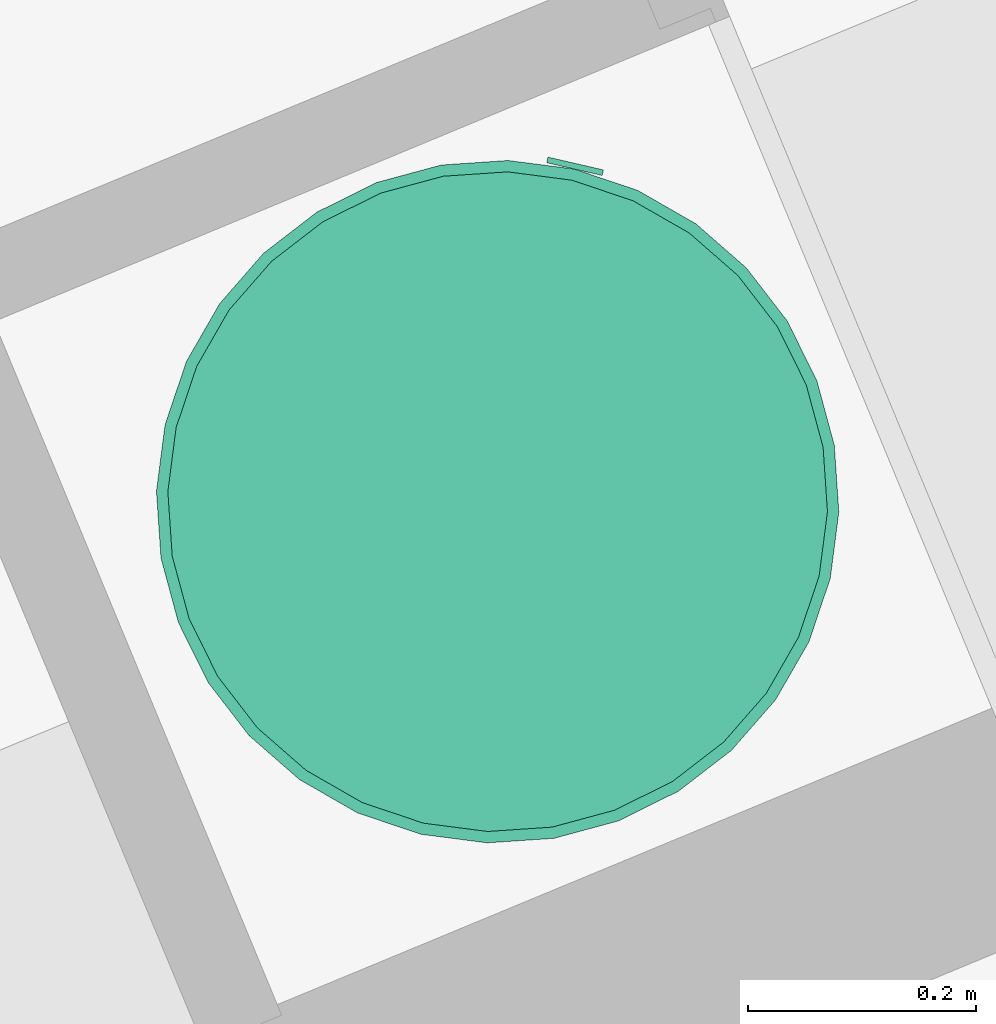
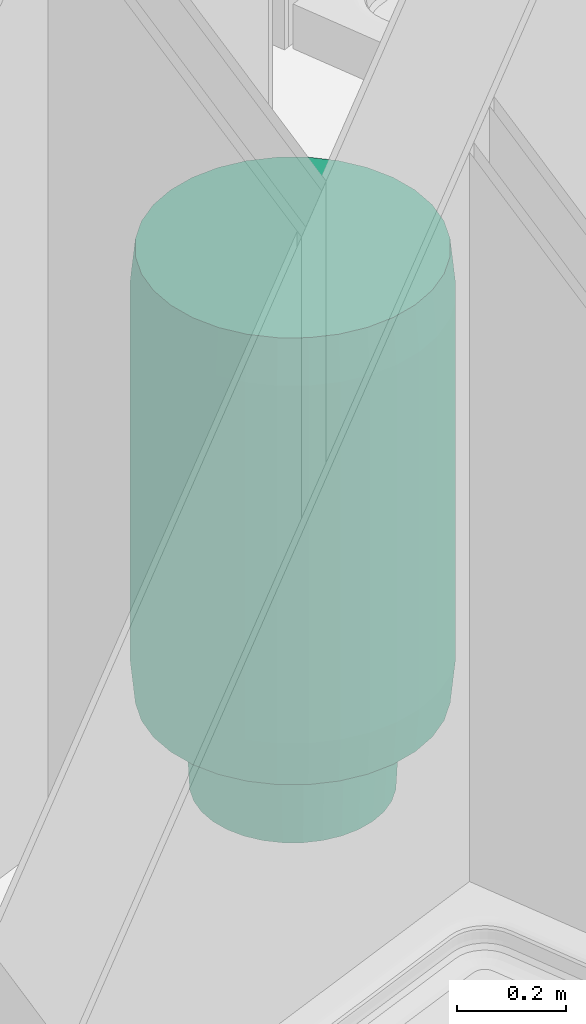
# One storey, part 82 of 119: 1 energy conversion device.
"""IFC2X3 building model written with IfcOpenShell, lengths in metres."""

from ifc_helpers import new_model, entity, si_unit, converted_unit, derived_unit, money_unit, direction, frame, origin_with_axes, place, context, subcontext, project, spatial, open_shell, faceted_brep, surface_model, source, transform, mapped, type_object, element, save


model = new_model("IFC2X3")

# Units and contexts
model_context = context("Model", 3, precision=1e-05, world=origin_with_axes(), true_north=direction((0.0, 1.0)))
body_context = subcontext(model_context, "Body", "Model", "MODEL_VIEW")
ifc_project = project(units=[si_unit("LENGTHUNIT", "METRE"), si_unit("AREAUNIT", "SQUARE_METRE"), si_unit("VOLUMEUNIT", "CUBIC_METRE"), converted_unit("PLANEANGLEUNIT", "DEGREE", entity("IfcPlaneAngleMeasure", 0.0174532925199), si_unit("PLANEANGLEUNIT", "RADIAN"), dimensions=[0, 0, 0, 0, 0, 0, 0]), si_unit("SOLIDANGLEUNIT", "STERADIAN"), money_unit("EUR"), converted_unit("TIMEUNIT", "Year", entity("IfcTimeMeasure", 31556926.0), si_unit("TIMEUNIT", "SECOND"), dimensions=[0, 0, 1, 0, 0, 0, 0]), si_unit("MASSUNIT", "GRAM", prefix="KILO"), si_unit("THERMODYNAMICTEMPERATUREUNIT", "DEGREE_CELSIUS"), si_unit("LUMINOUSINTENSITYUNIT", "LUMEN"), si_unit("ENERGYUNIT", "JOULE", prefix="MEGA"), derived_unit("THERMALCONDUCTANCEUNIT", [(si_unit("POWERUNIT", "WATT"), 1), (si_unit("LENGTHUNIT", "METRE"), -1), (si_unit("THERMODYNAMICTEMPERATUREUNIT", "KELVIN"), -1)]), derived_unit("SPECIFICHEATCAPACITYUNIT", [(si_unit("ENERGYUNIT", "JOULE"), 1), (si_unit("MASSUNIT", "GRAM", prefix="KILO"), -1), (si_unit("THERMODYNAMICTEMPERATUREUNIT", "KELVIN"), -1)]), derived_unit("MASSDENSITYUNIT", [(si_unit("MASSUNIT", "GRAM", prefix="KILO"), 1), (si_unit("VOLUMEUNIT", "CUBIC_METRE"), -1)])], contexts=[model_context])

# Site, building, storey
site_placement = place(None, origin_with_axes())
site = spatial("IfcSite", under=ifc_project, at=site_placement, Name="Site", CompositionType="ELEMENT")
building_placement = place(site_placement, origin_with_axes())
building = spatial("IfcBuilding", under=site, at=building_placement, Name="Bâtiment", CompositionType="ELEMENT")
storey_placement = place(building_placement, origin_with_axes())
storey = spatial("IfcBuildingStorey", under=building, at=storey_placement, Name="Rez-de-chaussée", CompositionType="ELEMENT", Elevation=0.0)

# Energy conversion device
heat_exchanger_type = type_object("IfcHeatExchangerType", Name="Chauffe-eau électrique 23", PredefinedType="SHELLANDTUBE")
shared_shape = source(origin_with_axes(), body_context, "Body", "SurfaceModel", [
    surface_model("IfcShellBasedSurfaceModel", [(-0.245, -0.0135, 0.2), (-0.245, -0.0135, 0.18), (-0.241505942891, -0.0130399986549, 0.18), (-0.241505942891, -0.0130399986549, 0.2), (-0.248494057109, -0.0130399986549, 0.2), (-0.248494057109, -0.0130399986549, 0.18), (-0.23825, -0.0116913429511, 0.18), (-0.23825, -0.0116913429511, 0.2), (-0.25175, -0.0116913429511, 0.2), (-0.25175, -0.0116913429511, 0.18), (-0.235454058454, -0.00954594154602, 0.18), (-0.235454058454, -0.00954594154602, 0.2), (-0.254545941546, -0.00954594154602, 0.2), (-0.254545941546, -0.00954594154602, 0.18), (-0.233308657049, -0.00675, 0.18), (-0.233308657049, -0.00675, 0.2), (-0.256691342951, -0.00675, 0.2), (-0.256691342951, -0.00675, 0.18), (-0.231960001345, -0.00349405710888, 0.18), (-0.231960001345, -0.00349405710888, 0.2), (-0.258039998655, -0.00349405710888, 0.2), (-0.258039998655, -0.00349405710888, 0.18), (-0.2315, 0.0, 0.18), (-0.2315, 0.0, 0.2), (-0.2585, 0.0, 0.2), (-0.2585, 0.0, 0.18), (-0.231960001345, 0.00349405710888, 0.18), (-0.231960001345, 0.00349405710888, 0.2), (-0.258039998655, 0.00349405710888, 0.2), (-0.258039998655, 0.00349405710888, 0.18), (-0.233308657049, 0.00675, 0.18), (-0.233308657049, 0.00675, 0.2), (-0.256691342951, 0.00675, 0.2), (-0.256691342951, 0.00675, 0.18), (-0.235454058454, 0.00954594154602, 0.18), (-0.235454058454, 0.00954594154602, 0.2), (-0.254545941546, 0.00954594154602, 0.2), (-0.254545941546, 0.00954594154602, 0.18), (-0.23825, 0.0116913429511, 0.18), (-0.23825, 0.0116913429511, 0.2), (-0.25175, 0.0116913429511, 0.2), (-0.25175, 0.0116913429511, 0.18), (-0.241505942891, 0.0130399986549, 0.18), (-0.241505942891, 0.0130399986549, 0.2), (-0.248494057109, 0.0130399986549, 0.2), (-0.248494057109, 0.0130399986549, 0.18), (-0.245, 0.0135, 0.18), (-0.245, 0.0135, 0.2)], [open_shell([[[0, 1, 2, 3]], [[4, 5, 1, 0]], [[3, 2, 6, 7]], [[8, 9, 5, 4]], [[7, 6, 10, 11]], [[12, 13, 9, 8]], [[11, 10, 14, 15]], [[16, 17, 13, 12]], [[15, 14, 18, 19]], [[20, 21, 17, 16]], [[19, 18, 22, 23]], [[24, 25, 21, 20]], [[23, 22, 26, 27]], [[28, 29, 25, 24]], [[27, 26, 30, 31]], [[32, 33, 29, 28]], [[31, 30, 34, 35]], [[36, 37, 33, 32]], [[35, 34, 38, 39]], [[40, 41, 37, 36]], [[39, 38, 42, 43]], [[44, 45, 41, 40]], [[43, 42, 46, 47]], [[47, 46, 45, 44]]])]),
    surface_model("IfcShellBasedSurfaceModel", [(0.245, -0.0135, 0.2), (0.245, -0.0135, 0.18), (0.248494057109, -0.0130399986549, 0.18), (0.248494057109, -0.0130399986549, 0.2), (0.241505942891, -0.0130399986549, 0.2), (0.241505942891, -0.0130399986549, 0.18), (0.25175, -0.0116913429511, 0.18), (0.25175, -0.0116913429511, 0.2), (0.23825, -0.0116913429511, 0.2), (0.23825, -0.0116913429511, 0.18), (0.254545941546, -0.00954594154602, 0.18), (0.254545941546, -0.00954594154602, 0.2), (0.235454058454, -0.00954594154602, 0.2), (0.235454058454, -0.00954594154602, 0.18), (0.256691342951, -0.00675, 0.18), (0.256691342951, -0.00675, 0.2), (0.233308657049, -0.00675, 0.2), (0.233308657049, -0.00675, 0.18), (0.258039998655, -0.00349405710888, 0.18), (0.258039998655, -0.00349405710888, 0.2), (0.231960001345, -0.00349405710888, 0.2), (0.231960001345, -0.00349405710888, 0.18), (0.2585, 0.0, 0.18), (0.2585, 0.0, 0.2), (0.2315, 0.0, 0.2), (0.2315, 0.0, 0.18), (0.258039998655, 0.00349405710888, 0.18), (0.258039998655, 0.00349405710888, 0.2), (0.231960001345, 0.00349405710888, 0.2), (0.231960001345, 0.00349405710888, 0.18), (0.256691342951, 0.00675, 0.18), (0.256691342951, 0.00675, 0.2), (0.233308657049, 0.00675, 0.2), (0.233308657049, 0.00675, 0.18), (0.254545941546, 0.00954594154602, 0.18), (0.254545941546, 0.00954594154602, 0.2), (0.235454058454, 0.00954594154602, 0.2), (0.235454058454, 0.00954594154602, 0.18), (0.25175, 0.0116913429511, 0.18), (0.25175, 0.0116913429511, 0.2), (0.23825, 0.0116913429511, 0.2), (0.23825, 0.0116913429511, 0.18), (0.248494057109, 0.0130399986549, 0.18), (0.248494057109, 0.0130399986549, 0.2), (0.241505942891, 0.0130399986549, 0.2), (0.241505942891, 0.0130399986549, 0.18), (0.245, 0.0135, 0.18), (0.245, 0.0135, 0.2)], [open_shell([[[0, 1, 2, 3]], [[4, 5, 1, 0]], [[3, 2, 6, 7]], [[8, 9, 5, 4]], [[7, 6, 10, 11]], [[12, 13, 9, 8]], [[11, 10, 14, 15]], [[16, 17, 13, 12]], [[15, 14, 18, 19]], [[20, 21, 17, 16]], [[19, 18, 22, 23]], [[24, 25, 21, 20]], [[23, 22, 26, 27]], [[28, 29, 25, 24]], [[27, 26, 30, 31]], [[32, 33, 29, 28]], [[31, 30, 34, 35]], [[36, 37, 33, 32]], [[35, 34, 38, 39]], [[40, 41, 37, 36]], [[39, 38, 42, 43]], [[44, 45, 41, 40]], [[43, 42, 46, 47]], [[47, 46, 45, 44]]])]),
    faceted_brep([(-0.025, -0.305, 0.4), (-0.025, -0.3, 0.4), (0.025, -0.3, 0.4), (0.025, -0.305, 0.4), (-0.025, -0.305, 0.42), (-0.025, -0.3, 0.42), (0.025, -0.3, 0.42), (0.025, -0.305, 0.42)], [[[0, 1, 2, 3]], [[0, 4, 5, 1]], [[1, 5, 6, 2]], [[2, 6, 7, 3]], [[3, 7, 4, 0]], [[7, 6, 5, 4]]]),
    faceted_brep([(0.0222836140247, -0.16, 0.088519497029), (0.02, -0.16, 0.1), (0.0222836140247, -0.16, 0.111480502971), (0.0287867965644, -0.16, 0.121213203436), (0.038519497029, -0.16, 0.127716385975), (0.05, -0.16, 0.13), (0.061480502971, -0.16, 0.127716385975), (0.0712132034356, -0.16, 0.121213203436), (0.0777163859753, -0.16, 0.111480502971), (0.08, -0.16, 0.1), (0.0777163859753, -0.16, 0.088519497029), (0.0712132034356, -0.16, 0.0787867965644), (0.061480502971, -0.16, 0.0722836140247), (0.05, -0.16, 0.07), (0.038519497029, -0.16, 0.0722836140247), (0.0287867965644, -0.16, 0.0787867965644), (0.0222836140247, -0.175, 0.088519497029), (0.02, -0.175, 0.1), (0.0222836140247, -0.175, 0.111480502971), (0.0287867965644, -0.175, 0.121213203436), (0.038519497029, -0.175, 0.127716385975), (0.05, -0.175, 0.13), (0.061480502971, -0.175, 0.127716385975), (0.0712132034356, -0.175, 0.121213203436), (0.0777163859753, -0.175, 0.111480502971), (0.08, -0.175, 0.1), (0.0777163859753, -0.175, 0.088519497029), (0.0712132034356, -0.175, 0.0787867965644), (0.061480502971, -0.175, 0.0722836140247), (0.05, -0.175, 0.07), (0.038519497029, -0.175, 0.0722836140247), (0.0287867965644, -0.175, 0.0787867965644)], [[[0, 1, 2, 3, 4, 5, 6, 7, 8, 9, 10, 11, 12, 13, 14, 15]], [[0, 16, 17, 1]], [[1, 17, 18, 2]], [[2, 18, 19, 3]], [[3, 19, 20, 4]], [[4, 20, 21, 5]], [[5, 21, 22, 6]], [[6, 22, 23, 7]], [[7, 23, 24, 8]], [[8, 24, 25, 9]], [[9, 25, 26, 10]], [[10, 26, 27, 11]], [[11, 27, 28, 12]], [[12, 28, 29, 13]], [[13, 29, 30, 14]], [[14, 30, 31, 15]], [[15, 31, 16, 0]], [[16, 31, 30, 29, 28, 27, 26, 25, 24, 23, 22, 21, 20, 19, 18, 17]]]),
    faceted_brep([(-0.0777163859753, -0.16, 0.088519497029), (-0.08, -0.16, 0.1), (-0.0777163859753, -0.16, 0.111480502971), (-0.0712132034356, -0.16, 0.121213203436), (-0.061480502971, -0.16, 0.127716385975), (-0.05, -0.16, 0.13), (-0.038519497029, -0.16, 0.127716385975), (-0.0287867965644, -0.16, 0.121213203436), (-0.0222836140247, -0.16, 0.111480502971), (-0.02, -0.16, 0.1), (-0.0222836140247, -0.16, 0.088519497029), (-0.0287867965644, -0.16, 0.0787867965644), (-0.038519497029, -0.16, 0.0722836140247), (-0.05, -0.16, 0.07), (-0.061480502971, -0.16, 0.0722836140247), (-0.0712132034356, -0.16, 0.0787867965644), (-0.0777163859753, -0.175, 0.088519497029), (-0.08, -0.175, 0.1), (-0.0777163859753, -0.175, 0.111480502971), (-0.0712132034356, -0.175, 0.121213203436), (-0.061480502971, -0.175, 0.127716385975), (-0.05, -0.175, 0.13), (-0.038519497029, -0.175, 0.127716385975), (-0.0287867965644, -0.175, 0.121213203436), (-0.0222836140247, -0.175, 0.111480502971), (-0.02, -0.175, 0.1), (-0.0222836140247, -0.175, 0.088519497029), (-0.0287867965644, -0.175, 0.0787867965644), (-0.038519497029, -0.175, 0.0722836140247), (-0.05, -0.175, 0.07), (-0.061480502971, -0.175, 0.0722836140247), (-0.0712132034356, -0.175, 0.0787867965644)], [[[0, 1, 2, 3, 4, 5, 6, 7, 8, 9, 10, 11, 12, 13, 14, 15]], [[0, 16, 17, 1]], [[1, 17, 18, 2]], [[2, 18, 19, 3]], [[3, 19, 20, 4]], [[4, 20, 21, 5]], [[5, 21, 22, 6]], [[6, 22, 23, 7]], [[7, 23, 24, 8]], [[8, 24, 25, 9]], [[9, 25, 26, 10]], [[10, 26, 27, 11]], [[11, 27, 28, 12]], [[12, 28, 29, 13]], [[13, 29, 30, 14]], [[14, 30, 31, 15]], [[15, 31, 16, 0]], [[16, 31, 30, 29, 28, 27, 26, 25, 24, 23, 22, 21, 20, 19, 18, 17]]]),
    faceted_brep([(-0.186349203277, -0.0370671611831, 0.0), (-0.196157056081, -0.0390180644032, 0.2), (-0.2, 0.0, 0.2), (-0.19, 0.0, 0.0), (-0.175537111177, -0.0727098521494, 0.0), (-0.184775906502, -0.076536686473, 0.2), (-0.166293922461, -0.111114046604, 0.2), (-0.141421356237, -0.141421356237, 0.2), (-0.118783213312, -0.16, 0.2), (0.118783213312, -0.16, 0.2), (0.141421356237, -0.141421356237, 0.2), (0.166293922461, -0.111114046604, 0.2), (0.184775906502, -0.076536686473, 0.2), (0.196157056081, -0.0390180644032, 0.2), (0.2, 0.0, 0.2), (0.196157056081, 0.0390180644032, 0.2), (0.184775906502, 0.076536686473, 0.2), (0.166293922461, 0.111114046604, 0.2), (0.141421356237, 0.141421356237, 0.2), (0.111114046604, 0.166293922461, 0.2), (0.076536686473, 0.184775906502, 0.2), (0.0390180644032, 0.196157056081, 0.2), (0.0, 0.2, 0.2), (-0.0390180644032, 0.196157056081, 0.2), (-0.076536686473, 0.184775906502, 0.2), (-0.111114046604, 0.166293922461, 0.2), (-0.141421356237, 0.141421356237, 0.2), (-0.166293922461, 0.111114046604, 0.2), (-0.184775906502, 0.076536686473, 0.2), (-0.196157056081, 0.0390180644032, 0.2), (-0.186349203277, 0.0370671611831, 0.0), (-0.175537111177, 0.0727098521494, 0.0), (-0.157979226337, 0.105558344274, 0.0), (-0.134350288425, 0.134350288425, 0.0), (-0.105558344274, 0.157979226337, 0.0), (-0.0727098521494, 0.175537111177, 0.0), (-0.0370671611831, 0.186349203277, 0.0), (0.0, 0.19, 0.0), (0.0370671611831, 0.186349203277, 0.0), (0.0727098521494, 0.175537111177, 0.0), (0.105558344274, 0.157979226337, 0.0), (0.134350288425, 0.134350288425, 0.0), (0.157979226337, 0.105558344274, 0.0), (0.175537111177, 0.0727098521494, 0.0), (0.186349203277, 0.0370671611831, 0.0), (0.19, 0.0, 0.0), (0.186349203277, -0.0370671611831, 0.0), (0.175537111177, -0.0727098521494, 0.0), (0.157979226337, -0.105558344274, 0.0), (0.134350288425, -0.134350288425, 0.0), (0.105558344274, -0.157979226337, 0.0), (0.101777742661, -0.16, 0.0), (-0.101777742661, -0.16, 0.0), (-0.105558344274, -0.157979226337, 0.0), (-0.134350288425, -0.134350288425, 0.0), (-0.157979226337, -0.105558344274, 0.0), (-0.106908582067, -0.16, 0.0486072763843), (0.106908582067, -0.16, 0.0486072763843)], [[[0, 1, 2, 3]], [[4, 5, 1, 0]], [[1, 5, 6, 7, 8, 9, 10, 11, 12, 13, 14, 15, 16, 17, 18, 19, 20, 21, 22, 23, 24, 25, 26, 27, 28, 29, 2]], [[3, 2, 29, 30]], [[0, 3, 30, 31, 32, 33, 34, 35, 36, 37, 38, 39, 40, 41, 42, 43, 44, 45, 46, 47, 48, 49, 50, 51, 52, 53, 54, 55, 4]], [[55, 6, 5, 4]], [[54, 7, 6, 55]], [[53, 56, 8, 7, 54]], [[51, 57, 9, 8, 56, 52]], [[49, 10, 9, 57, 50]], [[48, 11, 10, 49]], [[47, 12, 11, 48]], [[46, 13, 12, 47]], [[45, 14, 13, 46]], [[44, 15, 14, 45]], [[43, 16, 15, 44]], [[42, 17, 16, 43]], [[41, 18, 17, 42]], [[40, 19, 18, 41]], [[39, 20, 19, 40]], [[38, 21, 20, 39]], [[37, 22, 21, 38]], [[36, 23, 22, 37]], [[35, 24, 23, 36]], [[34, 25, 24, 35]], [[33, 26, 25, 34]], [[32, 27, 26, 33]], [[31, 28, 27, 32]], [[30, 29, 28, 31]], [[50, 57, 51]], [[52, 56, 53]]]),
    faceted_brep([(-0.284427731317, -0.0565761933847, 0.2), (-0.294235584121, -0.0585270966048, 0.3), (-0.3, 0.0, 0.3), (-0.29, 0.0, 0.2), (-0.267925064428, -0.110978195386, 0.2), (-0.277163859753, -0.11480502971, 0.3), (-0.249440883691, -0.166671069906, 0.3), (-0.212132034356, -0.212132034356, 0.3), (-0.166671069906, -0.249440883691, 0.3), (-0.11480502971, -0.277163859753, 0.3), (-0.0585270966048, -0.294235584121, 0.3), (0.0, -0.3, 0.3), (0.0585270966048, -0.294235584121, 0.3), (0.11480502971, -0.277163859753, 0.3), (0.166671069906, -0.249440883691, 0.3), (0.212132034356, -0.212132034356, 0.3), (0.249440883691, -0.166671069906, 0.3), (0.277163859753, -0.11480502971, 0.3), (0.294235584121, -0.0585270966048, 0.3), (0.3, 0.0, 0.3), (0.294235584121, 0.0585270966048, 0.3), (0.277163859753, 0.11480502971, 0.3), (0.249440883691, 0.166671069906, 0.3), (0.212132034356, 0.212132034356, 0.3), (0.166671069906, 0.249440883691, 0.3), (0.11480502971, 0.277163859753, 0.3), (0.0585270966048, 0.294235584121, 0.3), (0.0, 0.3, 0.3), (-0.0585270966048, 0.294235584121, 0.3), (-0.11480502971, 0.277163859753, 0.3), (-0.166671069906, 0.249440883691, 0.3), (-0.212132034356, 0.212132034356, 0.3), (-0.249440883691, 0.166671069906, 0.3), (-0.277163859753, 0.11480502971, 0.3), (-0.294235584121, 0.0585270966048, 0.3), (-0.284427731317, 0.0565761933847, 0.2), (-0.267925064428, 0.110978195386, 0.2), (-0.241126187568, 0.161115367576, 0.2), (-0.205060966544, 0.205060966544, 0.2), (-0.161115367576, 0.241126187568, 0.2), (-0.110978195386, 0.267925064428, 0.2), (-0.0565761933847, 0.284427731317, 0.2), (0.0, 0.29, 0.2), (0.0565761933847, 0.284427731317, 0.2), (0.110978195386, 0.267925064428, 0.2), (0.161115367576, 0.241126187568, 0.2), (0.205060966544, 0.205060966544, 0.2), (0.241126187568, 0.161115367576, 0.2), (0.267925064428, 0.110978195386, 0.2), (0.284427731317, 0.0565761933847, 0.2), (0.29, 0.0, 0.2), (0.284427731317, -0.0565761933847, 0.2), (0.267925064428, -0.110978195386, 0.2), (0.241126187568, -0.161115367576, 0.2), (0.205060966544, -0.205060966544, 0.2), (0.161115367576, -0.241126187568, 0.2), (0.110978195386, -0.267925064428, 0.2), (0.0565761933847, -0.284427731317, 0.2), (0.0, -0.29, 0.2), (-0.0565761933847, -0.284427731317, 0.2), (-0.110978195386, -0.267925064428, 0.2), (-0.161115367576, -0.241126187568, 0.2), (-0.205060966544, -0.205060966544, 0.2), (-0.241126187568, -0.161115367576, 0.2)], [[[0, 1, 2, 3]], [[4, 5, 1, 0]], [[1, 5, 6, 7, 8, 9, 10, 11, 12, 13, 14, 15, 16, 17, 18, 19, 20, 21, 22, 23, 24, 25, 26, 27, 28, 29, 30, 31, 32, 33, 34, 2]], [[3, 2, 34, 35]], [[0, 3, 35, 36, 37, 38, 39, 40, 41, 42, 43, 44, 45, 46, 47, 48, 49, 50, 51, 52, 53, 54, 55, 56, 57, 58, 59, 60, 61, 62, 63, 4]], [[63, 6, 5, 4]], [[62, 7, 6, 63]], [[61, 8, 7, 62]], [[60, 9, 8, 61]], [[59, 10, 9, 60]], [[58, 11, 10, 59]], [[57, 12, 11, 58]], [[56, 13, 12, 57]], [[55, 14, 13, 56]], [[54, 15, 14, 55]], [[53, 16, 15, 54]], [[52, 17, 16, 53]], [[51, 18, 17, 52]], [[50, 19, 18, 51]], [[49, 20, 19, 50]], [[48, 21, 20, 49]], [[47, 22, 21, 48]], [[46, 23, 22, 47]], [[45, 24, 23, 46]], [[44, 25, 24, 45]], [[43, 26, 25, 44]], [[42, 27, 26, 43]], [[41, 28, 27, 42]], [[40, 29, 28, 41]], [[39, 30, 29, 40]], [[38, 31, 30, 39]], [[37, 32, 31, 38]], [[36, 33, 32, 37]], [[35, 34, 33, 36]]]),
    faceted_brep([(-0.294235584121, -0.0585270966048, 0.3), (-0.3, 0.0, 0.3), (-0.294235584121, 0.0585270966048, 0.3), (-0.277163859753, 0.11480502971, 0.3), (-0.249440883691, 0.166671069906, 0.3), (-0.212132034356, 0.212132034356, 0.3), (-0.166671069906, 0.249440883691, 0.3), (-0.11480502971, 0.277163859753, 0.3), (-0.0585270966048, 0.294235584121, 0.3), (0.0, 0.3, 0.3), (0.0585270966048, 0.294235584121, 0.3), (0.11480502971, 0.277163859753, 0.3), (0.166671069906, 0.249440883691, 0.3), (0.212132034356, 0.212132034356, 0.3), (0.249440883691, 0.166671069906, 0.3), (0.277163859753, 0.11480502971, 0.3), (0.294235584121, 0.0585270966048, 0.3), (0.3, 0.0, 0.3), (0.294235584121, -0.0585270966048, 0.3), (0.277163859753, -0.11480502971, 0.3), (0.249440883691, -0.166671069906, 0.3), (0.212132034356, -0.212132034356, 0.3), (0.166671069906, -0.249440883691, 0.3), (0.11480502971, -0.277163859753, 0.3), (0.0585270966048, -0.294235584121, 0.3), (0.0, -0.3, 0.3), (-0.0585270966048, -0.294235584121, 0.3), (-0.11480502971, -0.277163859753, 0.3), (-0.166671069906, -0.249440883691, 0.3), (-0.212132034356, -0.212132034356, 0.3), (-0.249440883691, -0.166671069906, 0.3), (-0.277163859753, -0.11480502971, 0.3), (-0.294235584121, -0.0585270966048, 1.1), (-0.3, 0.0, 1.1), (-0.294235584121, 0.0585270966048, 1.1), (-0.277163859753, 0.11480502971, 1.1), (-0.249440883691, 0.166671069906, 1.1), (-0.212132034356, 0.212132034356, 1.1), (-0.166671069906, 0.249440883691, 1.1), (-0.11480502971, 0.277163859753, 1.1), (-0.0585270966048, 0.294235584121, 1.1), (0.0, 0.3, 1.1), (0.0585270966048, 0.294235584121, 1.1), (0.11480502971, 0.277163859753, 1.1), (0.166671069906, 0.249440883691, 1.1), (0.212132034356, 0.212132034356, 1.1), (0.249440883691, 0.166671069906, 1.1), (0.277163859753, 0.11480502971, 1.1), (0.294235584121, 0.0585270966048, 1.1), (0.3, 0.0, 1.1), (0.294235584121, -0.0585270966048, 1.1), (0.277163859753, -0.11480502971, 1.1), (0.249440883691, -0.166671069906, 1.1), (0.212132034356, -0.212132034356, 1.1), (0.166671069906, -0.249440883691, 1.1), (0.11480502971, -0.277163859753, 1.1), (0.0585270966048, -0.294235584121, 1.1), (0.0, -0.3, 1.1), (-0.0585270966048, -0.294235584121, 1.1), (-0.11480502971, -0.277163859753, 1.1), (-0.166671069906, -0.249440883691, 1.1), (-0.212132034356, -0.212132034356, 1.1), (-0.249440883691, -0.166671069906, 1.1), (-0.277163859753, -0.11480502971, 1.1)], [[[0, 1, 2, 3, 4, 5, 6, 7, 8, 9, 10, 11, 12, 13, 14, 15, 16, 17, 18, 19, 20, 21, 22, 23, 24, 25, 26, 27, 28, 29, 30, 31]], [[0, 32, 33, 1]], [[1, 33, 34, 2]], [[2, 34, 35, 3]], [[3, 35, 36, 4]], [[4, 36, 37, 5]], [[5, 37, 38, 6]], [[6, 38, 39, 7]], [[7, 39, 40, 8]], [[8, 40, 41, 9]], [[9, 41, 42, 10]], [[10, 42, 43, 11]], [[11, 43, 44, 12]], [[12, 44, 45, 13]], [[13, 45, 46, 14]], [[14, 46, 47, 15]], [[15, 47, 48, 16]], [[16, 48, 49, 17]], [[17, 49, 50, 18]], [[18, 50, 51, 19]], [[19, 51, 52, 20]], [[20, 52, 53, 21]], [[21, 53, 54, 22]], [[22, 54, 55, 23]], [[23, 55, 56, 24]], [[24, 56, 57, 25]], [[25, 57, 58, 26]], [[26, 58, 59, 27]], [[27, 59, 60, 28]], [[28, 60, 61, 29]], [[29, 61, 62, 30]], [[30, 62, 63, 31]], [[31, 63, 32, 0]], [[32, 63, 62, 61, 60, 59, 58, 57, 56, 55, 54, 53, 52, 51, 50, 49, 48, 47, 46, 45, 44, 43, 42, 41, 40, 39, 38, 37, 36, 35, 34, 33]]]),
    faceted_brep([(-0.294235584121, -0.0585270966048, 1.1), (-0.284427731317, -0.0565761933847, 1.2), (-0.29, 0.0, 1.2), (-0.3, 0.0, 1.1), (-0.277163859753, -0.11480502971, 1.1), (-0.267925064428, -0.110978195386, 1.2), (-0.241126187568, -0.161115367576, 1.2), (-0.205060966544, -0.205060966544, 1.2), (-0.161115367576, -0.241126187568, 1.2), (-0.110978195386, -0.267925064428, 1.2), (-0.0565761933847, -0.284427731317, 1.2), (0.0, -0.29, 1.2), (0.0565761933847, -0.284427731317, 1.2), (0.110978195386, -0.267925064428, 1.2), (0.161115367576, -0.241126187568, 1.2), (0.205060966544, -0.205060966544, 1.2), (0.241126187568, -0.161115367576, 1.2), (0.267925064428, -0.110978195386, 1.2), (0.284427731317, -0.0565761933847, 1.2), (0.29, 0.0, 1.2), (0.284427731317, 0.0565761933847, 1.2), (0.267925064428, 0.110978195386, 1.2), (0.241126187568, 0.161115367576, 1.2), (0.205060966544, 0.205060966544, 1.2), (0.161115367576, 0.241126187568, 1.2), (0.110978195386, 0.267925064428, 1.2), (0.0565761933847, 0.284427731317, 1.2), (0.0, 0.29, 1.2), (-0.0565761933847, 0.284427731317, 1.2), (-0.110978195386, 0.267925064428, 1.2), (-0.161115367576, 0.241126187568, 1.2), (-0.205060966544, 0.205060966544, 1.2), (-0.241126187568, 0.161115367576, 1.2), (-0.267925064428, 0.110978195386, 1.2), (-0.284427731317, 0.0565761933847, 1.2), (-0.294235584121, 0.0585270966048, 1.1), (-0.277163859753, 0.11480502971, 1.1), (-0.249440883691, 0.166671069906, 1.1), (-0.212132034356, 0.212132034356, 1.1), (-0.166671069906, 0.249440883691, 1.1), (-0.11480502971, 0.277163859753, 1.1), (-0.0585270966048, 0.294235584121, 1.1), (0.0, 0.3, 1.1), (0.0585270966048, 0.294235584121, 1.1), (0.11480502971, 0.277163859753, 1.1), (0.166671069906, 0.249440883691, 1.1), (0.212132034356, 0.212132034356, 1.1), (0.249440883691, 0.166671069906, 1.1), (0.277163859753, 0.11480502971, 1.1), (0.294235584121, 0.0585270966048, 1.1), (0.3, 0.0, 1.1), (0.294235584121, -0.0585270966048, 1.1), (0.277163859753, -0.11480502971, 1.1), (0.249440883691, -0.166671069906, 1.1), (0.212132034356, -0.212132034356, 1.1), (0.166671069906, -0.249440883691, 1.1), (0.11480502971, -0.277163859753, 1.1), (0.0585270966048, -0.294235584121, 1.1), (0.0, -0.3, 1.1), (-0.0585270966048, -0.294235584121, 1.1), (-0.11480502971, -0.277163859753, 1.1), (-0.166671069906, -0.249440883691, 1.1), (-0.212132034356, -0.212132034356, 1.1), (-0.249440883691, -0.166671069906, 1.1)], [[[0, 1, 2, 3]], [[4, 5, 1, 0]], [[1, 5, 6, 7, 8, 9, 10, 11, 12, 13, 14, 15, 16, 17, 18, 19, 20, 21, 22, 23, 24, 25, 26, 27, 28, 29, 30, 31, 32, 33, 34, 2]], [[3, 2, 34, 35]], [[0, 3, 35, 36, 37, 38, 39, 40, 41, 42, 43, 44, 45, 46, 47, 48, 49, 50, 51, 52, 53, 54, 55, 56, 57, 58, 59, 60, 61, 62, 63, 4]], [[63, 6, 5, 4]], [[62, 7, 6, 63]], [[61, 8, 7, 62]], [[60, 9, 8, 61]], [[59, 10, 9, 60]], [[58, 11, 10, 59]], [[57, 12, 11, 58]], [[56, 13, 12, 57]], [[55, 14, 13, 56]], [[54, 15, 14, 55]], [[53, 16, 15, 54]], [[52, 17, 16, 53]], [[51, 18, 17, 52]], [[50, 19, 18, 51]], [[49, 20, 19, 50]], [[48, 21, 20, 49]], [[47, 22, 21, 48]], [[46, 23, 22, 47]], [[45, 24, 23, 46]], [[44, 25, 24, 45]], [[43, 26, 25, 44]], [[42, 27, 26, 43]], [[41, 28, 27, 42]], [[40, 29, 28, 41]], [[39, 30, 29, 40]], [[38, 31, 30, 39]], [[37, 32, 31, 38]], [[36, 33, 32, 37]], [[35, 34, 33, 36]]]),
])
energy_conversion_device_placement = place(storey_placement, frame((-30.9562151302, -21.1701581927, 0.0), z_axis=(0.0, 0.0, 1.0), x_axis=(-0.97438734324, 0.224876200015, 0.0)))
element("IfcEnergyConversionDevice", 1, at=energy_conversion_device_placement, inside=storey, type_object=heat_exchanger_type, Name="MOB-002", context=body_context, shape_type="MappedRepresentation", body=[
    mapped(shared_shape, transform((0.0, 0.0, 0.0))),
])

save(model, "model.ifc")
